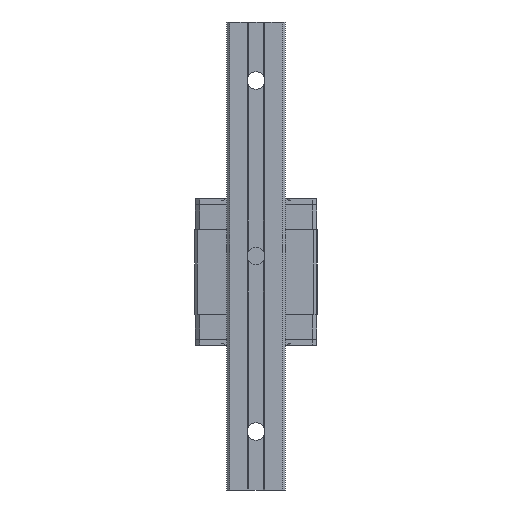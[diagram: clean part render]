
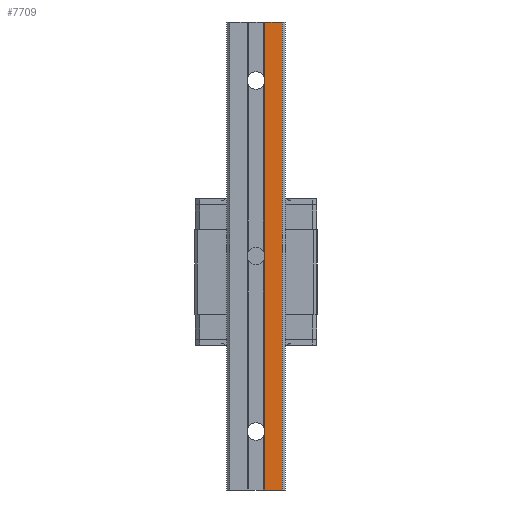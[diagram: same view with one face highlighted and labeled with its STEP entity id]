
A CAD part, front view. The second image highlights one B-rep face of the part: STEP entity #7709.
In plain terms, the highlighted planar face has unit normal (0, -1, 0).
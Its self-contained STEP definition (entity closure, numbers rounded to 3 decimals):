
#7177=PLANE('',#22822);
#7709=ADVANCED_FACE('',(#8789),#7177,.T.);
#8789=FACE_OUTER_BOUND('',#9623,.T.);
#9623=EDGE_LOOP('',(#13748,#13749,#13750,#13751,#13752,#13753,#13754));
#10645=LINE('',#27751,#12069);
#10673=LINE('',#27835,#12097);
#10690=LINE('',#27879,#12114);
#10691=LINE('',#27881,#12115);
#10692=LINE('',#27884,#12116);
#10693=LINE('',#27886,#12117);
#10694=LINE('',#27887,#12118);
#12069=VECTOR('',#23934,1.);
#12097=VECTOR('',#23994,1.);
#12114=VECTOR('',#24043,1.);
#12115=VECTOR('',#24046,1.);
#12116=VECTOR('',#24047,1.);
#12117=VECTOR('',#24048,1.);
#12118=VECTOR('',#24049,1.);
#13748=ORIENTED_EDGE('',*,*,#20110,.T.);
#13749=ORIENTED_EDGE('',*,*,#20111,.T.);
#13750=ORIENTED_EDGE('',*,*,#20112,.T.);
#13751=ORIENTED_EDGE('',*,*,#20045,.F.);
#13752=ORIENTED_EDGE('',*,*,#20109,.F.);
#13753=ORIENTED_EDGE('',*,*,#20087,.T.);
#13754=ORIENTED_EDGE('',*,*,#20113,.T.);
#18454=VERTEX_POINT('',#27750);
#18455=VERTEX_POINT('',#27752);
#18494=VERTEX_POINT('',#27834);
#18495=VERTEX_POINT('',#27836);
#18506=VERTEX_POINT('',#27882);
#18507=VERTEX_POINT('',#27883);
#18508=VERTEX_POINT('',#27885);
#20045=EDGE_CURVE('',#18454,#18455,#10645,.T.);
#20087=EDGE_CURVE('',#18495,#18494,#10673,.T.);
#20109=EDGE_CURVE('',#18495,#18454,#10690,.T.);
#20110=EDGE_CURVE('',#18506,#18507,#10691,.T.);
#20111=EDGE_CURVE('',#18507,#18508,#10692,.T.);
#20112=EDGE_CURVE('',#18508,#18455,#10693,.T.);
#20113=EDGE_CURVE('',#18494,#18506,#10694,.T.);
#22822=AXIS2_PLACEMENT_3D('',#27888,#24050,#24051);
#23934=DIRECTION('',(-1.,0.,0.));
#23994=DIRECTION('',(-1.,0.,0.));
#24043=DIRECTION('',(0.,0.,-1.));
#24046=DIRECTION('',(0.,0.,-1.));
#24047=DIRECTION('',(0.,0.,-1.));
#24048=DIRECTION('',(0.,0.,-1.));
#24049=DIRECTION('',(0.,0.,-1.));
#24050=DIRECTION('',(0.,-1.,0.));
#24051=DIRECTION('',(1.,0.,0.));
#27750=CARTESIAN_POINT('',(9.,-15.5,-60.));
#27751=CARTESIAN_POINT('',(9.,-15.5,-60.));
#27752=CARTESIAN_POINT('',(3.,-15.5,-60.));
#27834=CARTESIAN_POINT('',(3.,-15.5,100.));
#27835=CARTESIAN_POINT('',(9.,-15.5,100.));
#27836=CARTESIAN_POINT('',(9.,-15.5,100.));
#27879=CARTESIAN_POINT('',(9.,-15.5,100.));
#27881=CARTESIAN_POINT('',(3.,-15.5,80.));
#27882=CARTESIAN_POINT('',(3.,-15.5,80.));
#27883=CARTESIAN_POINT('',(3.,-15.5,20.));
#27884=CARTESIAN_POINT('',(3.,-15.5,20.));
#27885=CARTESIAN_POINT('',(3.,-15.5,-40.));
#27886=CARTESIAN_POINT('',(3.,-15.5,-40.));
#27887=CARTESIAN_POINT('',(3.,-15.5,100.));
#27888=CARTESIAN_POINT('',(3.,-15.5,-30.));
